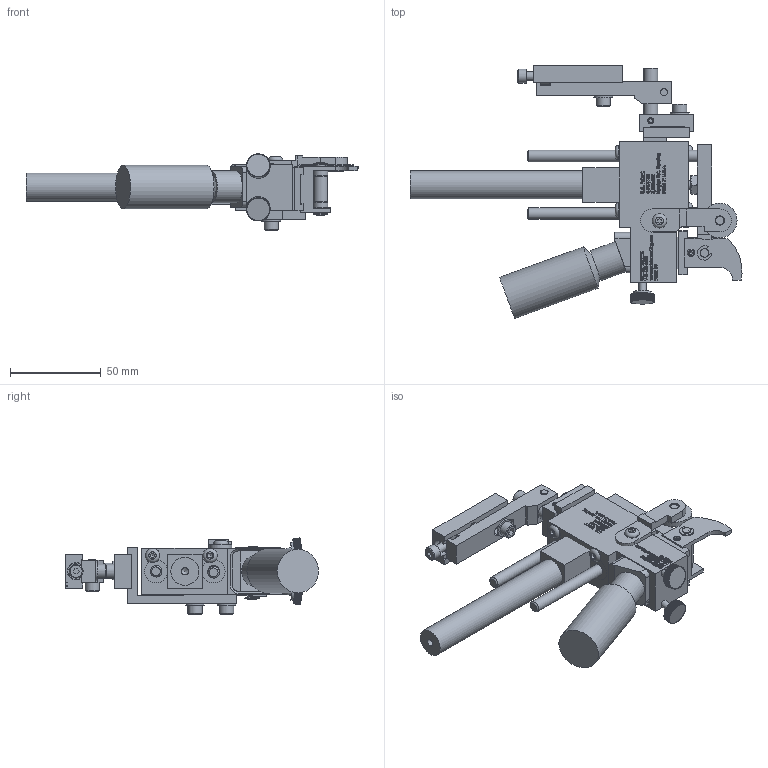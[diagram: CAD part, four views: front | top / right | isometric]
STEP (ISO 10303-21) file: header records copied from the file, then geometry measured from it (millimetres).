
FILE_DESCRIPTION((''),'2;1');
FILE_NAME('C:\Documents and Settings\Ron\My Documents\Inventor\Sprinter Drawing\Machines in Inventor\Model 66\Type\Std\Brkt\Ret\Model 66 Standard type Retracted w brkt mod 2012.stp','2012-02-29T08:41:01',('Ron'),(''),'Autodesk Inventor 2011','Autodesk Inventor 2011','');
FILE_SCHEMA(('AUTOMOTIVE_DESIGN { 1 0 10303 214 1 1 1 1 }'));
Length unit declared in the file: inch
Products named in the file (44): Model 66 Standard type Retracted w brkt mod 2012; 66 Frame Body Assy Std w brkt; 66 Frame Body; Hexagon Socket Button Head Cap Screw - Inch 8 - 32 x 1/4; Hexagon Socket Head Cap Screw - Inch No. 8 - 32 UNC - 1 1/2; 66 Linear Bearing; 66 Ink; 66 INK BOTTLE; 66 Ink Pad; 66 Wheel Bracket; 8-32x0.25 Hexagon Socket Button Head Cap Screw ANSI/ASME B18.3; 44 Cam Wheel; 44 Wheel Retainer; 10 Ink Resevior Lock Screw; Model 66 Bracket; Model 66 RPB; rpb4; rpb3; rpb-1; rpb2; No. 10-24x0.88 Hexagon socket head cap screw ANSI/ASME B18.3; Type B - Plain Washer (Inch) No. 10 - narrow - Type B; 66 Machine Mounting Pivot Bracket; Pin - Hardened Ground Machine Dowel (Inch) 1/8 x 3/8; Rod Carrier Retracted Standard; Rod Carrier Retracted; 66 Rod Carrier; Type A - Hexagon Socket Set Screw - Cup Point - Inch 8-32 UNC x 0.32; 66 PIVOT SHAFT; 66 PIVOT SHAFT LOCKING RING; 23 66 invert block; AS 1112 (4)  - Metric M6; 19 Rod Carrier Set Screws; 66 Spring; Hexagon Socket Set Screw - Flat Point - Inch 8-32 UNC x 0.32; 66 type clip; 66 Marking Head Plate; 44 & up Removable Marking Head Securing Post; 66-28; Part # 28 - number 66 stamp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
Assembly tree (60 placements, depth 5):
  Model 66 Standard type Retracted w brkt mod 2012
    66 Frame Body Assy Std w brkt
      66 Frame Body
      Hexagon Socket Button Head Cap Screw - Inch 8 - 32 x 1/4  x4
      Hexagon Socket Head Cap Screw - Inch No. 8 - 32 UNC - 1 1/2  x2
      66 Linear Bearing  x2
      66 Ink
      66 INK BOTTLE
      66 Ink Pad
      66 Wheel Bracket
      8-32x0.25 Hexagon Socket Button Head Cap Screw ANSI/ASME B18.3
      44 Cam Wheel
      44 Wheel Retainer
      10 Ink Resevior Lock Screw  x2
      Model 66 Bracket
        Model 66 RPB
          rpb4
          rpb3
          rpb-1
          rpb2
          No. 10-24x0.88 Hexagon socket head cap screw ANSI/ASME B18.3  x5
          Type B - Plain Washer (Inch) No. 10 - narrow - Type B  x4
          66 Machine Mounting Pivot Bracket
          Pin - Hardened Ground Machine Dowel (Inch) 1/8 x 3/8  x2
    Rod Carrier Retracted Standard
      Rod Carrier Retracted
        66 Rod Carrier
        Type A - Hexagon Socket Set Screw - Cup Point - Inch 8-32 UNC x 0.32
        66 PIVOT SHAFT
        66 PIVOT SHAFT LOCKING RING  x2
        23 66 invert block
        AS 1112 (4)  - Metric M6
        19 Rod Carrier Set Screws  x2
        66 Spring
        Hexagon Socket Set Screw - Flat Point - Inch 8-32 UNC x 0.32
        66 type clip
          66 Marking Head Plate
          44 & up Removable Marking Head Securing Post
          66-28
          Part # 28 - number 66 stamp
      Model 66, std .25 x 4  x2
      Part # 27 - Model 66 Rubber Cushion Sheet
    Standard Retracted
    10-32 PORTS DECAL
Bounding box: 183.21 x 139.56 x 42.07 mm (x, y, z)
Volume: 166268.5 mm3; surface area: 86265 mm2
Topology: 427 solids, 427 shells, 6313 faces, 15460 edges, 9556 vertices
Faces by surface type: plane 4358, bspline 1301, cylinder 551, cone 80, torus 23
Full cylindrical faces by diameter (mm): 1.575 x1, 2.54 x2, 2.642 x1, 3.175 x4, 3.2 x1, 3.302 x12, 3.658 x1, 3.683 x2, 3.962 x12, 4.064 x2, 4.166 x11, 4.318 x2, 4.699 x3, 4.75 x3, 4.775 x2, 4.826 x8, 4.864 x2, 4.917 x1, 5.08 x1, 5.156 x7, 5.182 x1, 5.359 x1, 5.556 x1, 6.325 x2, 6.35 x7, 6.426 x1, 6.604 x1, 6.858 x2, 7.353 x2, 7.62 x2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
Entity records: 150336 total; most frequent: CARTESIAN_POINT 44683, ORIENTED_EDGE 23372, DIRECTION 16783, EDGE_CURVE 11686, VECTOR 8289, LINE 8289, VERTEX_POINT 7492, EDGE_LOOP 5220
